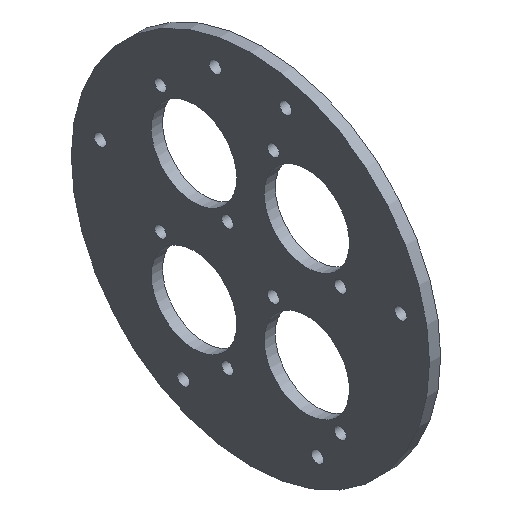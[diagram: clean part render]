
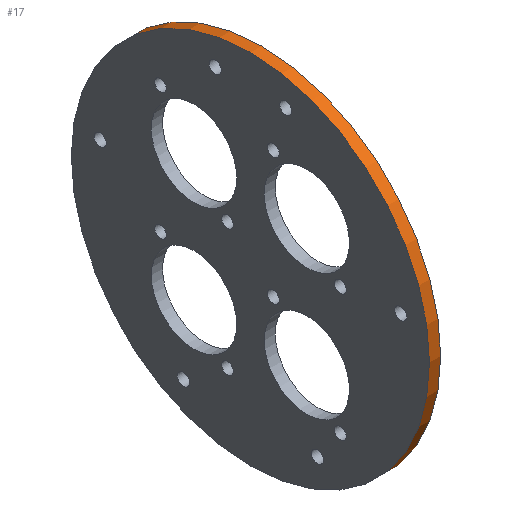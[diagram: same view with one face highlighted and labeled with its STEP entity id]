
A CAD part, isometric view. The second image highlights one B-rep face of the part: STEP entity #17.
In plain terms, the highlighted cylindrical face has radius 50.8 mm (diameter 101.6 mm), a full revolution.
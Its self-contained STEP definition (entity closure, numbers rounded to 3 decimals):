
#17 = ADVANCED_FACE('',(#18),#31,.T.);
#18 = FACE_BOUND('',#19,.T.);
#19 = EDGE_LOOP('',(#20,#54,#77,#104));
#20 = ORIENTED_EDGE('',*,*,#21,.F.);
#21 = EDGE_CURVE('',#22,#22,#24,.T.);
#22 = VERTEX_POINT('',#23);
#23 = CARTESIAN_POINT('',(3.175,50.8,101.6));
#24 = SURFACE_CURVE('',#25,(#30,#42),.PCURVE_S1.);
#25 = CIRCLE('',#26,50.8);
#26 = AXIS2_PLACEMENT_3D('',#27,#28,#29);
#27 = CARTESIAN_POINT('',(3.175,50.8,50.8));
#28 = DIRECTION('',(1.,0.,0.));
#29 = DIRECTION('',(-0.,0.,1.));
#30 = PCURVE('',#31,#36);
#31 = CYLINDRICAL_SURFACE('',#32,50.8);
#32 = AXIS2_PLACEMENT_3D('',#33,#34,#35);
#33 = CARTESIAN_POINT('',(0.,50.8,50.8));
#34 = DIRECTION('',(1.,0.,0.));
#35 = DIRECTION('',(-0.,0.,1.));
#36 = DEFINITIONAL_REPRESENTATION('',(#37),#41);
#37 = LINE('',#38,#39);
#38 = CARTESIAN_POINT('',(0.,3.175));
#39 = VECTOR('',#40,1.);
#40 = DIRECTION('',(1.,0.));
#41 = ( GEOMETRIC_REPRESENTATION_CONTEXT(2) 
PARAMETRIC_REPRESENTATION_CONTEXT() REPRESENTATION_CONTEXT('2D SPACE',''
  ) );
#42 = PCURVE('',#43,#48);
#43 = PLANE('',#44);
#44 = AXIS2_PLACEMENT_3D('',#45,#46,#47);
#45 = CARTESIAN_POINT('',(3.175,50.8,50.8));
#46 = DIRECTION('',(1.,0.,0.));
#47 = DIRECTION('',(-0.,0.,1.));
#48 = DEFINITIONAL_REPRESENTATION('',(#49),#53);
#49 = CIRCLE('',#50,50.8);
#50 = AXIS2_PLACEMENT_2D('',#51,#52);
#51 = CARTESIAN_POINT('',(0.,0.));
#52 = DIRECTION('',(1.,0.));
#53 = ( GEOMETRIC_REPRESENTATION_CONTEXT(2) 
PARAMETRIC_REPRESENTATION_CONTEXT() REPRESENTATION_CONTEXT('2D SPACE',''
  ) );
#54 = ORIENTED_EDGE('',*,*,#55,.F.);
#55 = EDGE_CURVE('',#56,#22,#58,.T.);
#56 = VERTEX_POINT('',#57);
#57 = CARTESIAN_POINT('',(0.,50.8,101.6));
#58 = SEAM_CURVE('',#59,(#63,#70),.PCURVE_S1.);
#59 = LINE('',#60,#61);
#60 = CARTESIAN_POINT('',(0.,50.8,101.6));
#61 = VECTOR('',#62,1.);
#62 = DIRECTION('',(1.,0.,0.));
#63 = PCURVE('',#31,#64);
#64 = DEFINITIONAL_REPRESENTATION('',(#65),#69);
#65 = LINE('',#66,#67);
#66 = CARTESIAN_POINT('',(6.283,-0.));
#67 = VECTOR('',#68,1.);
#68 = DIRECTION('',(0.,1.));
#69 = ( GEOMETRIC_REPRESENTATION_CONTEXT(2) 
PARAMETRIC_REPRESENTATION_CONTEXT() REPRESENTATION_CONTEXT('2D SPACE',''
  ) );
#70 = PCURVE('',#31,#71);
#71 = DEFINITIONAL_REPRESENTATION('',(#72),#76);
#72 = LINE('',#73,#74);
#73 = CARTESIAN_POINT('',(0.,-0.));
#74 = VECTOR('',#75,1.);
#75 = DIRECTION('',(0.,1.));
#76 = ( GEOMETRIC_REPRESENTATION_CONTEXT(2) 
PARAMETRIC_REPRESENTATION_CONTEXT() REPRESENTATION_CONTEXT('2D SPACE',''
  ) );
#77 = ORIENTED_EDGE('',*,*,#78,.T.);
#78 = EDGE_CURVE('',#56,#56,#79,.T.);
#79 = SURFACE_CURVE('',#80,(#85,#92),.PCURVE_S1.);
#80 = CIRCLE('',#81,50.8);
#81 = AXIS2_PLACEMENT_3D('',#82,#83,#84);
#82 = CARTESIAN_POINT('',(0.,50.8,50.8));
#83 = DIRECTION('',(1.,0.,0.));
#84 = DIRECTION('',(-0.,0.,1.));
#85 = PCURVE('',#31,#86);
#86 = DEFINITIONAL_REPRESENTATION('',(#87),#91);
#87 = LINE('',#88,#89);
#88 = CARTESIAN_POINT('',(0.,0.));
#89 = VECTOR('',#90,1.);
#90 = DIRECTION('',(1.,0.));
#91 = ( GEOMETRIC_REPRESENTATION_CONTEXT(2) 
PARAMETRIC_REPRESENTATION_CONTEXT() REPRESENTATION_CONTEXT('2D SPACE',''
  ) );
#92 = PCURVE('',#93,#98);
#93 = PLANE('',#94);
#94 = AXIS2_PLACEMENT_3D('',#95,#96,#97);
#95 = CARTESIAN_POINT('',(0.,50.8,50.8));
#96 = DIRECTION('',(1.,0.,0.));
#97 = DIRECTION('',(-0.,0.,1.));
#98 = DEFINITIONAL_REPRESENTATION('',(#99),#103);
#99 = CIRCLE('',#100,50.8);
#100 = AXIS2_PLACEMENT_2D('',#101,#102);
#101 = CARTESIAN_POINT('',(0.,0.));
#102 = DIRECTION('',(1.,0.));
#103 = ( GEOMETRIC_REPRESENTATION_CONTEXT(2) 
PARAMETRIC_REPRESENTATION_CONTEXT() REPRESENTATION_CONTEXT('2D SPACE',''
  ) );
#104 = ORIENTED_EDGE('',*,*,#55,.T.);
